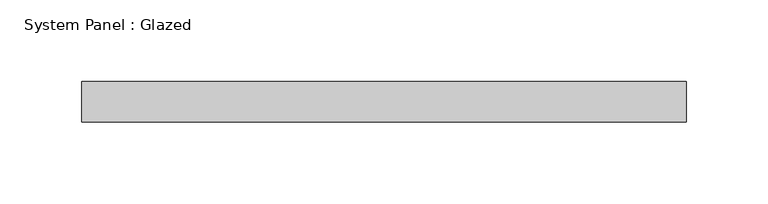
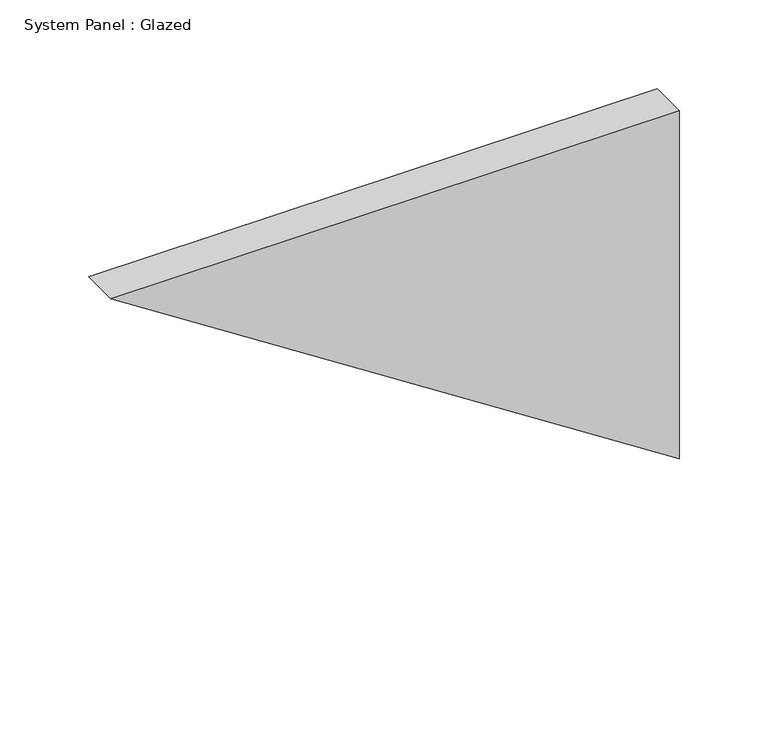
"""IFC4 building model written with IfcOpenShell, lengths in millimetres: plate geometry, System Panel : Glazed."""

from ifc_helpers import new_model, si_unit, frame, origin, place, context, project, spatial, polyline, outline, extrude, source, transform, mapped, element, save


def system_panel_glazed_37481fb5(model_context):
    return source(origin(), model_context, "Body", "SweptSolid", [
        extrude(outline(polyline([(239.6734134, -185.1743274), (0.0, 185.1743274), (239.6734134, 185.1743274), (239.6734134, -185.1743274)])), frame((0.0, 24.5, 0.0), z_axis=(0.0, 1.0, 0.0), x_axis=(0.0, 0.0, 1.0)), (0.0, 0.0, 1.0), 25.0),
    ])


if __name__ == "__main__":
    model = new_model("IFC4")
    model_context = context("Model", 3, world=origin())
    ifc_project = project(units=[si_unit("LENGTHUNIT", "METRE", prefix="MILLI")], contexts=[model_context])
    site = spatial("IfcSite", under=ifc_project)
    building = spatial("IfcBuilding", under=site)
    placement = place(None, origin())
    system_panel_glazed_shape = system_panel_glazed_37481fb5(model_context)
    element("IfcPlate", 1, ObjectType="System Panel : Glazed", at=placement, inside=building, context=model_context, shape_type="MappedRepresentation", body=[
        mapped(system_panel_glazed_shape, transform((0.0, 0.0, 0.0), x_axis=(1.0, 0.0, 0.0), y_axis=(0.0, 1.0, 0.0), z_axis=(0.0, 0.0, 1.0))),
    ])
    save(model, "model.ifc")
